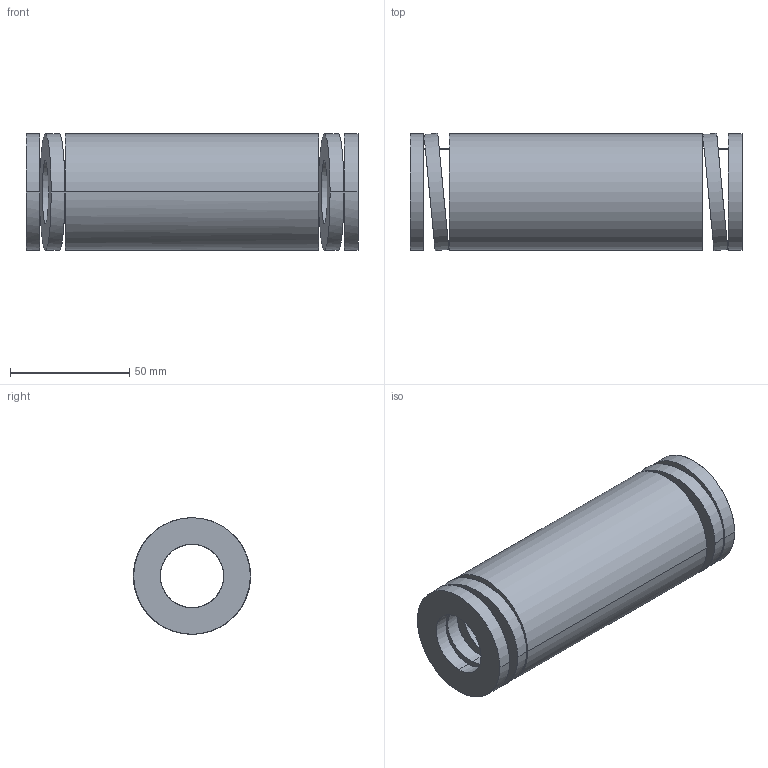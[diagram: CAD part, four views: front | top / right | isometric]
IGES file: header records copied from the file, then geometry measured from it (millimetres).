
Start section: START RECORD GO HERE.
Global section: file name: 392-B50-139.igs; native system: DASSAULT SYSTEMES CATIA V5 R20 - www.3ds.com; preprocessor: CATIA Version 5 Release 20 ; author: Utente; organization: NB04-ASUS; date: 20210813.132800; units: millimetre
Bounding box: 139 x 49.13 x 48.8 mm (x, y, z)
Surface area: 43790.5 mm2 (no closed solid volume)
Topology: 0 solids, 0 shells, 38 faces, 184 edges, 184 vertices
Faces by surface type: revolution 28, plane 10
